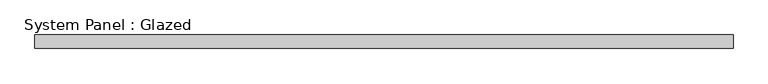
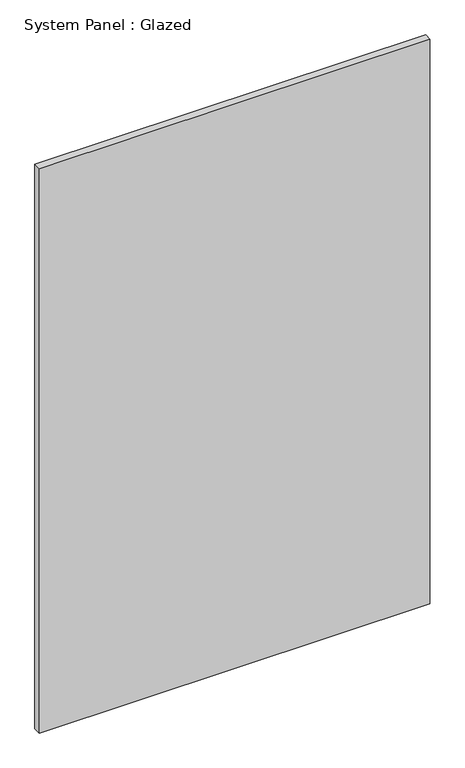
"""IFC4 building model written with IfcOpenShell, lengths in millimetres: plate geometry, System Panel : Glazed."""

from ifc_helpers import new_model, si_unit, origin, origin_with_axes, place, context, project, spatial, polyline, outline, extrude, source, transform, mapped, element, save


def system_panel_glazed_b5705625(model_context):
    return source(origin(), model_context, "Body", "SweptSolid", [
        extrude(outline(polyline([(643.17875, 24.5), (-643.17875, 24.5), (-643.17875, 49.5), (643.17875, 49.5), (643.17875, 24.5)])), origin_with_axes(), (0.0, 0.0, 1.0), 1965.2),
    ])


if __name__ == "__main__":
    model = new_model("IFC4")
    model_context = context("Model", 3, world=origin())
    ifc_project = project(units=[si_unit("LENGTHUNIT", "METRE", prefix="MILLI")], contexts=[model_context])
    site = spatial("IfcSite", under=ifc_project)
    building = spatial("IfcBuilding", under=site)
    placement = place(None, origin())
    system_panel_glazed_shape = system_panel_glazed_b5705625(model_context)
    element("IfcPlate", 1, ObjectType="System Panel : Glazed", at=placement, inside=building, context=model_context, shape_type="MappedRepresentation", body=[
        mapped(system_panel_glazed_shape, transform((0.0, 0.0, 0.0), x_axis=(1.0, 0.0, 0.0), y_axis=(0.0, 1.0, 0.0), z_axis=(0.0, 0.0, 1.0))),
    ])
    save(model, "model.ifc")
